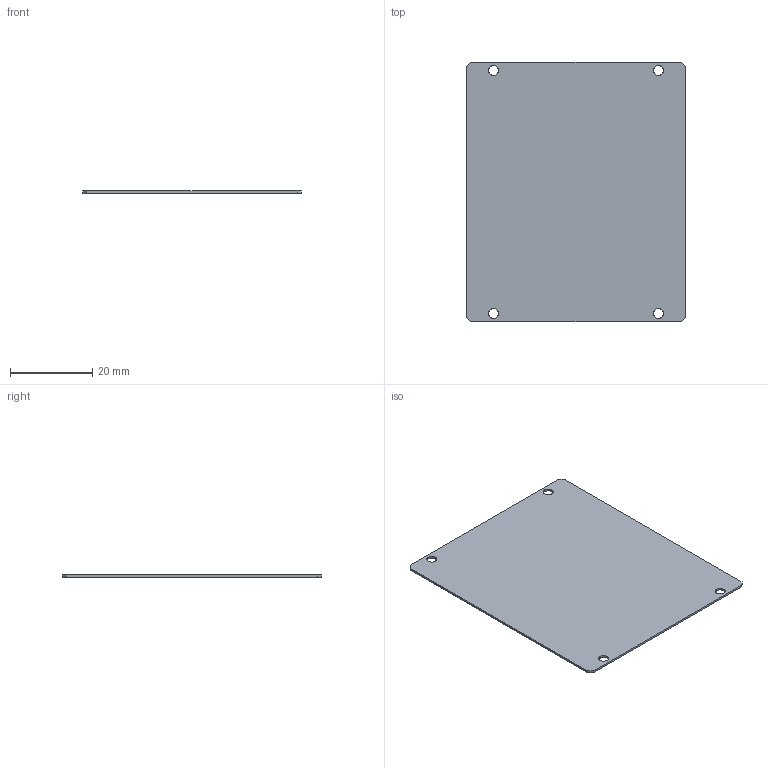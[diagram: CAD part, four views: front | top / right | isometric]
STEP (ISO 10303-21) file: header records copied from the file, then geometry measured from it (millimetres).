
FILE_DESCRIPTION (( 'STEP AP203' ), '1' );
FILE_NAME ('UA07746.STEP', '2020-06-09T02:24:39', ( 'CCS' ), ( 'シーシーエス株式会社' ), 'SwSTEP 2.0', 'SolidWorks 2017', '' );
FILE_SCHEMA (( 'CONFIG_CONTROL_DESIGN' ));
Length unit declared in the file: millimetre
Products named in the file (2): KA07746-A001; UA07746
Assembly tree (1 placements, depth 2):
  UA07746
    KA07746-A001
Bounding box: 53 x 63 x 0.5 mm (x, y, z)
Volume: 1659.5 mm3; surface area: 6767.7 mm2
Topology: 1 solids, 1 shells, 18 faces, 48 edges, 32 vertices
Faces by surface type: plane 10, cylinder 8
Entity records: 780 total; most frequent: DIRECTION 108, CARTESIAN_POINT 102, ORIENTED_EDGE 96, EDGE_CURVE 48, AXIS2_PLACEMENT_3D 38, VECTOR 32, VERTEX_POINT 32, LINE 32
